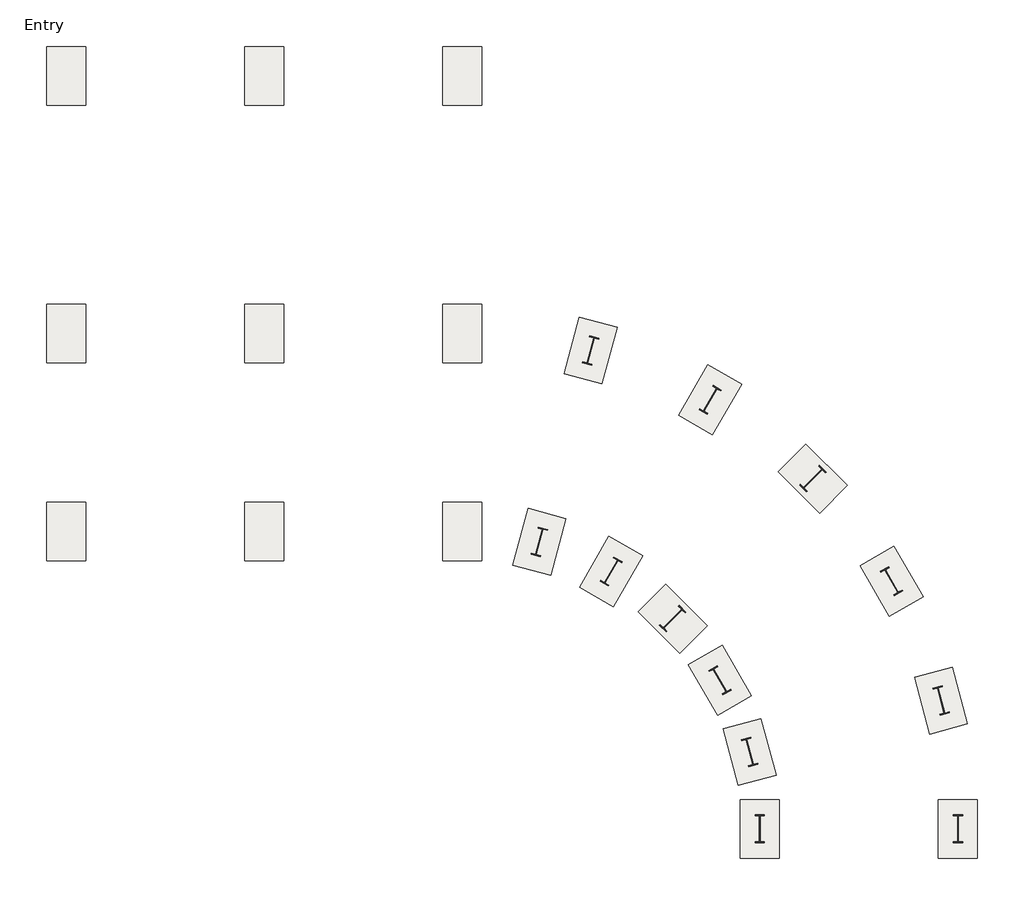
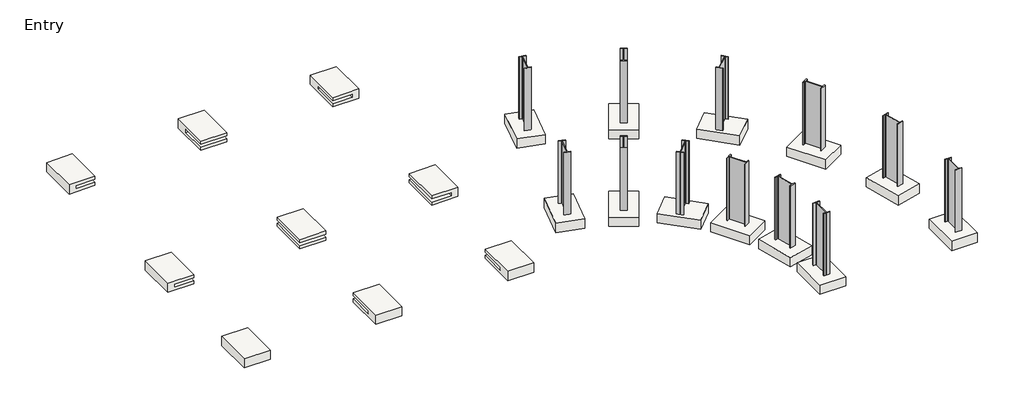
# One storey: 21 slabs, 12 columns.
"""IFC4 building model written with IfcOpenShell, lengths in millimetres."""

from ifc_helpers import new_model, si_unit, frame, origin, place, context, project, spatial, polyline, outline, extrude, faceted_brep, transform, mapped, element, save
from components import w840x251_55315ef0, m_footing_rectangular_1800_x_1200_x_450mm_16ba7ea5

model = new_model("IFC4")

# Units and contexts
model_context = context("Model", 3, world=origin())
ifc_project = project(units=[si_unit("LENGTHUNIT", "METRE", prefix="MILLI")], contexts=[model_context])

# Site, building, storey
site = spatial("IfcSite", under=ifc_project)
building = spatial("IfcBuilding", under=site)
storey = spatial("IfcBuildingStorey", under=building, Name="Entry", Elevation=0.0)

# Columns
placement = place(None, origin())
w840x251_shape = w840x251_55315ef0(model_context)
element("IfcColumn", 1, ObjectType="M_W Shapes-Column : W840X251", at=placement, inside=storey, context=model_context, shape_type="MappedRepresentation", body=[
    mapped(w840x251_shape, transform((-4797.0467956, -11916.3595363, 0.0), x_axis=(1.0, 0.0, 0.0), y_axis=(0.0, 1.0, 0.0), z_axis=(0.0, 0.0, 1.0))),
])
element("IfcColumn", 2, ObjectType="M_W Shapes-Column : W840X251", at=placement, inside=storey, context=model_context, shape_type="MappedRepresentation", body=[
    mapped(w840x251_shape, transform((1298.9532044, -11916.3595363, 0.0), x_axis=(1.0, 0.0, 0.0), y_axis=(0.0, 1.0, 0.0), z_axis=(0.0, 0.0, 1.0))),
])
element("IfcColumn", 3, ObjectType="M_W Shapes-Column : W840X251", at=placement, inside=storey, context=model_context, shape_type="MappedRepresentation", body=[
    mapped(w840x251_shape, transform((-5108.62104, -9549.7181879, 0.0), x_axis=(0.9659258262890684, 0.2588190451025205, 0.0), y_axis=(-0.2588190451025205, 0.9659258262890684, 0.0), z_axis=(0.0, 0.0, 1.0))),
])
element("IfcColumn", 4, ObjectType="M_W Shapes-Column : W840X251", at=placement, inside=storey, context=model_context, shape_type="MappedRepresentation", body=[
    mapped(w840x251_shape, transform((779.6627971, -7971.957289, 0.0), x_axis=(0.9659258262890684, 0.2588190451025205, 0.0), y_axis=(-0.2588190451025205, 0.9659258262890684, 0.0), z_axis=(0.0, 0.0, 1.0))),
])
element("IfcColumn", 5, ObjectType="M_W Shapes-Column : W840X251", at=placement, inside=storey, context=model_context, shape_type="MappedRepresentation", body=[
    mapped(w840x251_shape, transform((-6022.1105033, -7344.3595363, 0.0), x_axis=(0.866025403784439, 0.49999999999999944, 0.0), y_axis=(-0.49999999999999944, 0.866025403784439, 0.0), z_axis=(0.0, 0.0, 1.0))),
])
element("IfcColumn", 6, ObjectType="M_W Shapes-Column : W840X251", at=placement, inside=storey, context=model_context, shape_type="MappedRepresentation", body=[
    mapped(w840x251_shape, transform((-742.8196419, -4296.3595363, 0.0), x_axis=(0.866025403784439, 0.49999999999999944, 0.0), y_axis=(-0.49999999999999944, 0.866025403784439, 0.0), z_axis=(0.0, 0.0, 1.0))),
])
element("IfcColumn", 7, ObjectType="M_W Shapes-Column : W840X251", at=placement, inside=storey, context=model_context, shape_type="MappedRepresentation", body=[
    mapped(w840x251_shape, transform((-7475.2623884, -5450.5751292, 0.0), x_axis=(0.7071067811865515, -0.7071067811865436, 0.0), y_axis=(0.7071067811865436, 0.7071067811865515, 0.0), z_axis=(0.0, 0.0, 1.0))),
])
element("IfcColumn", 8, ObjectType="M_W Shapes-Column : W840X251", at=placement, inside=storey, context=model_context, shape_type="MappedRepresentation", body=[
    mapped(w840x251_shape, transform((-3164.7394503, -1140.0521911, 0.0), x_axis=(0.7071067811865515, -0.7071067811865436, 0.0), y_axis=(0.7071067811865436, 0.7071067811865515, 0.0), z_axis=(0.0, 0.0, 1.0))),
])
element("IfcColumn", 9, ObjectType="M_W Shapes-Column : W840X251", at=placement, inside=storey, context=model_context, shape_type="MappedRepresentation", body=[
    mapped(w840x251_shape, transform((-9369.0467956, -3997.4232441, 0.0), x_axis=(0.8660254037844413, -0.49999999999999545, 0.0), y_axis=(0.49999999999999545, 0.8660254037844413, 0.0), z_axis=(0.0, 0.0, 1.0))),
])
element("IfcColumn", 10, ObjectType="M_W Shapes-Column : W840X251", at=placement, inside=storey, context=model_context, shape_type="MappedRepresentation", body=[
    mapped(w840x251_shape, transform((-6321.0467956, 1281.8676173, 0.0), x_axis=(0.8660254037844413, -0.49999999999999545, 0.0), y_axis=(0.49999999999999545, 0.8660254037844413, 0.0), z_axis=(0.0, 0.0, 1.0))),
])
element("IfcColumn", 11, ObjectType="M_W Shapes-Column : W840X251", at=placement, inside=storey, context=model_context, shape_type="MappedRepresentation", body=[
    mapped(w840x251_shape, transform((-11574.4054471, -3083.9337808, 0.0), x_axis=(0.9659258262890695, -0.258819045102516, 0.0), y_axis=(0.258819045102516, 0.9659258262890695, 0.0), z_axis=(0.0, 0.0, 1.0))),
])
element("IfcColumn", 12, ObjectType="M_W Shapes-Column : W840X251", at=placement, inside=storey, context=model_context, shape_type="MappedRepresentation", body=[
    mapped(w840x251_shape, transform((-9996.6445482, 2804.3500563, 0.0), x_axis=(0.9659258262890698, -0.25881904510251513, 0.0), y_axis=(0.25881904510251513, 0.9659258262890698, 0.0), z_axis=(0.0, 0.0, 1.0))),
])

# Slabs
element("IfcSlab", 13, ObjectType="M_Footing-Rectangular : 1800 x 1200 x 450mm", at=placement, inside=storey, context=model_context, shape_type="Brep", body=[
    faceted_brep([(-14541.0467956, 10348.6404637, -1676.4), (-13341.0467956, 10348.6404637, -1676.4), (-13341.0467956, 12148.6404637, -1676.4), (-14541.0467956, 12148.6404637, -1676.4), (-14541.0467956, 10348.6404637, -2126.4), (-14541.0467956, 12148.6404637, -2126.4), (-13341.0467956, 12148.6404637, -2126.4), (-13341.0467956, 10348.6404637, -2126.4), (-14541.0467956, 10348.6404637, -1828.8), (-13641.0467956, 10348.6404637, -1828.8), (-13641.0467956, 10348.6404637, -1978.8), (-14541.0467956, 10348.6404637, -1978.8), (-14541.0467956, 11548.6404637, -1978.8), (-14541.0467956, 11548.6404637, -1828.8), (-13641.0467956, 11548.6404637, -1978.8), (-13641.0467956, 11548.6404637, -1828.8)], [[[0, 1, 2, 3]], [[4, 5, 6, 7]], [[1, 0, 8, 9, 10, 11, 4, 7]], [[2, 1, 7, 6]], [[3, 2, 6, 5]], [[0, 3, 5, 4, 11, 12, 13, 8]], [[14, 12, 11, 10]], [[15, 9, 8, 13]], [[15, 14, 10, 9]], [[14, 15, 13, 12]]]),
])
element("IfcSlab", 14, ObjectType="M_Footing-Rectangular : 1800 x 1200 x 450mm", at=placement, inside=storey, context=model_context, shape_type="SweptSolid", body=[
    extrude(outline(polyline([(10348.6404637, -1676.4), (12148.6404637, -1676.4), (12148.6404637, -2126.4), (10348.6404637, -2126.4), (10348.6404637, -1978.8), (11548.6404637, -1978.8), (11548.6404637, -1828.8), (10348.6404637, -1828.8), (10348.6404637, -1676.4)])), frame((-20637.0467956, 0.0, 0.0), z_axis=(1.0, 0.0, 0.0), x_axis=(0.0, 1.0, 0.0)), (0.0, 0.0, 1.0), 1200.0),
])
element("IfcSlab", 15, ObjectType="M_Footing-Rectangular : 1800 x 1200 x 450mm", at=placement, inside=storey, context=model_context, shape_type="Brep", body=[
    faceted_brep([(-26733.0467956, 10348.6404637, -1676.4), (-25533.0467956, 10348.6404637, -1676.4), (-25533.0467956, 12148.6404637, -1676.4), (-26733.0467956, 12148.6404637, -1676.4), (-26733.0467956, 10348.6404637, -2126.4), (-26733.0467956, 12148.6404637, -2126.4), (-25533.0467956, 12148.6404637, -2126.4), (-25533.0467956, 10348.6404637, -2126.4), (-25533.0467956, 10348.6404637, -1978.8), (-26433.0467956, 10348.6404637, -1978.8), (-26433.0467956, 10348.6404637, -1828.8), (-25533.0467956, 10348.6404637, -1828.8), (-25533.0467956, 11548.6404637, -1828.8), (-25533.0467956, 11548.6404637, -1978.8), (-26433.0467956, 11548.6404637, -1978.8), (-26433.0467956, 11548.6404637, -1828.8)], [[[0, 1, 2, 3]], [[4, 5, 6, 7]], [[1, 0, 4, 7, 8, 9, 10, 11]], [[2, 1, 11, 12, 13, 8, 7, 6]], [[3, 2, 6, 5]], [[0, 3, 5, 4]], [[13, 14, 9, 8]], [[10, 15, 12, 11]], [[14, 15, 10, 9]], [[15, 14, 13, 12]]]),
])
element("IfcSlab", 16, ObjectType="M_Footing-Rectangular : 1800 x 1200 x 450mm", at=placement, inside=storey, context=model_context, shape_type="SweptSolid", body=[
    extrude(outline(polyline([(-1676.4, -13341.0467956), (-1676.4, -14541.0467956), (-1828.8, -14541.0467956), (-1828.8, -13641.0467956), (-1978.8, -13641.0467956), (-1978.8, -14541.0467956), (-2126.4, -14541.0467956), (-2126.4, -13341.0467956), (-1676.4, -13341.0467956)])), frame((0.0, 2423.6404637, 0.0), z_axis=(0.0, 1.0, 0.0), x_axis=(0.0, 0.0, 1.0)), (0.0, 0.0, 1.0), 1800.0),
])
element("IfcSlab", 17, ObjectType="M_Footing-Rectangular : 1800 x 1200 x 450mm", at=placement, inside=storey, context=model_context, shape_type="Brep", body=[
    faceted_brep([(-13341.0467956, -1872.3595363, -1676.4), (-14541.0467956, -1872.3595363, -1676.4), (-14541.0467956, -3672.3595363, -1676.4), (-13341.0467956, -3672.3595363, -1676.4), (-13341.0467956, -1872.3595363, -2126.4), (-13341.0467956, -3672.3595363, -2126.4), (-14541.0467956, -3672.3595363, -2126.4), (-14541.0467956, -1872.3595363, -2126.4), (-14541.0467956, -1872.3595363, -1978.8), (-13641.0467956, -1872.3595363, -1978.8), (-13641.0467956, -1872.3595363, -1828.8), (-14541.0467956, -1872.3595363, -1828.8), (-14541.0467956, -3072.3595363, -1828.8), (-14541.0467956, -3072.3595363, -1978.8), (-13641.0467956, -3072.3595363, -1978.8), (-13641.0467956, -3072.3595363, -1828.8)], [[[0, 1, 2, 3]], [[4, 5, 6, 7]], [[1, 0, 4, 7, 8, 9, 10, 11]], [[2, 1, 11, 12, 13, 8, 7, 6]], [[3, 2, 6, 5]], [[0, 3, 5, 4]], [[13, 14, 9, 8]], [[10, 15, 12, 11]], [[14, 15, 10, 9]], [[15, 14, 13, 12]]]),
])
element("IfcSlab", 18, ObjectType="M_Footing-Rectangular : 1800 x 1200 x 450mm", at=placement, inside=storey, context=model_context, shape_type="SweptSolid", body=[
    extrude(outline(polyline([(-3672.3595363, -1676.4), (-1872.3595363, -1676.4), (-1872.3595363, -1828.8), (-3072.3595363, -1828.8), (-3072.3595363, -1978.8), (-1872.3595363, -1978.8), (-1872.3595363, -2126.4), (-3672.3595363, -2126.4), (-3672.3595363, -1676.4)])), frame((-20637.0467956, 0.0, 0.0), z_axis=(1.0, 0.0, 0.0), x_axis=(0.0, 1.0, 0.0)), (0.0, 0.0, 1.0), 1200.0),
])
element("IfcSlab", 19, ObjectType="M_Footing-Rectangular : 1800 x 1200 x 450mm", at=placement, inside=storey, context=model_context, shape_type="Brep", body=[
    faceted_brep([(-26733.0467956, -3672.3595363, -1676.4), (-25533.0467956, -3672.3595363, -1676.4), (-25533.0467956, -1872.3595363, -1676.4), (-26733.0467956, -1872.3595363, -1676.4), (-26733.0467956, -3672.3595363, -2126.4), (-26733.0467956, -1872.3595363, -2126.4), (-25533.0467956, -1872.3595363, -2126.4), (-25533.0467956, -3672.3595363, -2126.4), (-25533.0467956, -1872.3595363, -1978.8), (-25533.0467956, -3072.3595363, -1978.8), (-25533.0467956, -3072.3595363, -1828.8), (-25533.0467956, -1872.3595363, -1828.8), (-26433.0467956, -1872.3595363, -1828.8), (-26433.0467956, -1872.3595363, -1978.8), (-26433.0467956, -3072.3595363, -1978.8), (-26433.0467956, -3072.3595363, -1828.8)], [[[0, 1, 2, 3]], [[4, 5, 6, 7]], [[1, 0, 4, 7]], [[2, 1, 7, 6, 8, 9, 10, 11]], [[3, 2, 11, 12, 13, 8, 6, 5]], [[0, 3, 5, 4]], [[13, 14, 9, 8]], [[10, 15, 12, 11]], [[14, 15, 10, 9]], [[15, 14, 13, 12]]]),
])
element("IfcSlab", 20, ObjectType="M_Footing-Rectangular : 1800 x 1200 x 450mm", at=placement, inside=storey, context=model_context, shape_type="SweptSolid", body=[
    extrude(outline(polyline([(-19437.0467956, 2423.6404637), (-20637.0467956, 2423.6404637), (-20637.0467956, 4223.6404637), (-19437.0467956, 4223.6404637), (-19437.0467956, 2423.6404637)])), frame((0.0, 0.0, -1828.8), z_axis=(0.0, 0.0, 1.0), x_axis=(1.0, 0.0, 0.0)), (0.0, 0.0, 1.0), 152.4),
    extrude(outline(polyline([(-20637.0467956, 2423.6404637), (-20637.0467956, 4223.6404637), (-19437.0467956, 4223.6404637), (-19437.0467956, 2423.6404637), (-20637.0467956, 2423.6404637)])), frame((0.0, 0.0, -2126.4), z_axis=(0.0, 0.0, 1.0), x_axis=(1.0, 0.0, 0.0)), (0.0, 0.0, 1.0), 147.6),
])
element("IfcSlab", 21, ObjectType="M_Footing-Rectangular : 1800 x 1200 x 450mm", at=placement, inside=storey, context=model_context, shape_type="SweptSolid", body=[
    extrude(outline(polyline([(-1676.4, -25533.0467956), (-1676.4, -26733.0467956), (-2126.4, -26733.0467956), (-2126.4, -25533.0467956), (-1978.8, -25533.0467956), (-1978.8, -26433.0467956), (-1828.8, -26433.0467956), (-1828.8, -25533.0467956), (-1676.4, -25533.0467956)])), frame((0.0, 2423.6404637, 0.0), z_axis=(0.0, 1.0, 0.0), x_axis=(0.0, 0.0, 1.0)), (0.0, 0.0, 1.0), 1800.0),
])
m_footing_rectangular_1800_x_1200_x_450mm_shape = m_footing_rectangular_1800_x_1200_x_450mm_16ba7ea5(model_context)
element("IfcSlab", 22, ObjectType="M_Footing-Rectangular : 1800 x 1200 x 450mm", at=placement, inside=storey, context=model_context, shape_type="MappedRepresentation", body=[
    mapped(m_footing_rectangular_1800_x_1200_x_450mm_shape, transform((1298.9532044, -11916.3595363, 0.0), x_axis=(1.0, 0.0, 0.0), y_axis=(0.0, 1.0, 0.0), z_axis=(0.0, 0.0, 1.0))),
])
element("IfcSlab", 23, ObjectType="M_Footing-Rectangular : 1800 x 1200 x 450mm", at=placement, inside=storey, context=model_context, shape_type="MappedRepresentation", body=[
    mapped(m_footing_rectangular_1800_x_1200_x_450mm_shape, transform((779.6627971, -7971.957289, 0.0), x_axis=(0.9659258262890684, 0.2588190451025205, 0.0), y_axis=(-0.2588190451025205, 0.9659258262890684, 0.0), z_axis=(0.0, 0.0, 1.0))),
])
element("IfcSlab", 24, ObjectType="M_Footing-Rectangular : 1800 x 1200 x 450mm", at=placement, inside=storey, context=model_context, shape_type="MappedRepresentation", body=[
    mapped(m_footing_rectangular_1800_x_1200_x_450mm_shape, transform((-742.8196419, -4296.3595363, 0.0), x_axis=(0.866025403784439, 0.49999999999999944, 0.0), y_axis=(-0.49999999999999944, 0.866025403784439, 0.0), z_axis=(0.0, 0.0, 1.0))),
])
element("IfcSlab", 25, ObjectType="M_Footing-Rectangular : 1800 x 1200 x 450mm", at=placement, inside=storey, context=model_context, shape_type="MappedRepresentation", body=[
    mapped(m_footing_rectangular_1800_x_1200_x_450mm_shape, transform((-3164.7394503, -1140.0521911, 0.0), x_axis=(0.707106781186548, 0.707106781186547, 0.0), y_axis=(-0.707106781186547, 0.707106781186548, 0.0), z_axis=(0.0, 0.0, 1.0))),
])
element("IfcSlab", 26, ObjectType="M_Footing-Rectangular : 1800 x 1200 x 450mm", at=placement, inside=storey, context=model_context, shape_type="MappedRepresentation", body=[
    mapped(m_footing_rectangular_1800_x_1200_x_450mm_shape, transform((-6321.0467956, 1281.8676173, 0.0), x_axis=(0.8660254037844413, -0.49999999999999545, 0.0), y_axis=(0.49999999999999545, 0.8660254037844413, 0.0), z_axis=(0.0, 0.0, 1.0))),
])
element("IfcSlab", 27, ObjectType="M_Footing-Rectangular : 1800 x 1200 x 450mm", at=placement, inside=storey, context=model_context, shape_type="MappedRepresentation", body=[
    mapped(m_footing_rectangular_1800_x_1200_x_450mm_shape, transform((-9996.6445482, 2804.3500563, 0.0), x_axis=(0.9659258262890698, -0.25881904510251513, 0.0), y_axis=(0.25881904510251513, 0.9659258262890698, 0.0), z_axis=(0.0, 0.0, 1.0))),
])
element("IfcSlab", 28, ObjectType="M_Footing-Rectangular : 1800 x 1200 x 450mm", at=placement, inside=storey, context=model_context, shape_type="MappedRepresentation", body=[
    mapped(m_footing_rectangular_1800_x_1200_x_450mm_shape, transform((-4797.0467956, -11916.3595363, 0.0), x_axis=(1.0, 0.0, 0.0), y_axis=(0.0, 1.0, 0.0), z_axis=(0.0, 0.0, 1.0))),
])
element("IfcSlab", 29, ObjectType="M_Footing-Rectangular : 1800 x 1200 x 450mm", at=placement, inside=storey, context=model_context, shape_type="MappedRepresentation", body=[
    mapped(m_footing_rectangular_1800_x_1200_x_450mm_shape, transform((-5108.62104, -9549.7181879, 0.0), x_axis=(0.9659258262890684, 0.2588190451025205, 0.0), y_axis=(-0.2588190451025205, 0.9659258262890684, 0.0), z_axis=(0.0, 0.0, 1.0))),
])
element("IfcSlab", 30, ObjectType="M_Footing-Rectangular : 1800 x 1200 x 450mm", at=placement, inside=storey, context=model_context, shape_type="MappedRepresentation", body=[
    mapped(m_footing_rectangular_1800_x_1200_x_450mm_shape, transform((-6022.1105033, -7344.3595363, 0.0), x_axis=(0.866025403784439, 0.49999999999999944, 0.0), y_axis=(-0.49999999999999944, 0.866025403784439, 0.0), z_axis=(0.0, 0.0, 1.0))),
])
element("IfcSlab", 31, ObjectType="M_Footing-Rectangular : 1800 x 1200 x 450mm", at=placement, inside=storey, context=model_context, shape_type="MappedRepresentation", body=[
    mapped(m_footing_rectangular_1800_x_1200_x_450mm_shape, transform((-7475.2623884, -5450.5751292, 0.0), x_axis=(0.707106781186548, 0.707106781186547, 0.0), y_axis=(-0.707106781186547, 0.707106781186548, 0.0), z_axis=(0.0, 0.0, 1.0))),
])
element("IfcSlab", 32, ObjectType="M_Footing-Rectangular : 1800 x 1200 x 450mm", at=placement, inside=storey, context=model_context, shape_type="MappedRepresentation", body=[
    mapped(m_footing_rectangular_1800_x_1200_x_450mm_shape, transform((-9369.0467956, -3997.4232441, 0.0), x_axis=(0.8660254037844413, -0.49999999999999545, 0.0), y_axis=(0.49999999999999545, 0.8660254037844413, 0.0), z_axis=(0.0, 0.0, 1.0))),
])
element("IfcSlab", 33, ObjectType="M_Footing-Rectangular : 1800 x 1200 x 450mm", at=placement, inside=storey, context=model_context, shape_type="MappedRepresentation", body=[
    mapped(m_footing_rectangular_1800_x_1200_x_450mm_shape, transform((-11574.4054471, -3083.9337808, 0.0), x_axis=(0.9659258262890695, -0.258819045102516, 0.0), y_axis=(0.258819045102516, 0.9659258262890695, 0.0), z_axis=(0.0, 0.0, 1.0))),
])

save(model, "model.ifc")
